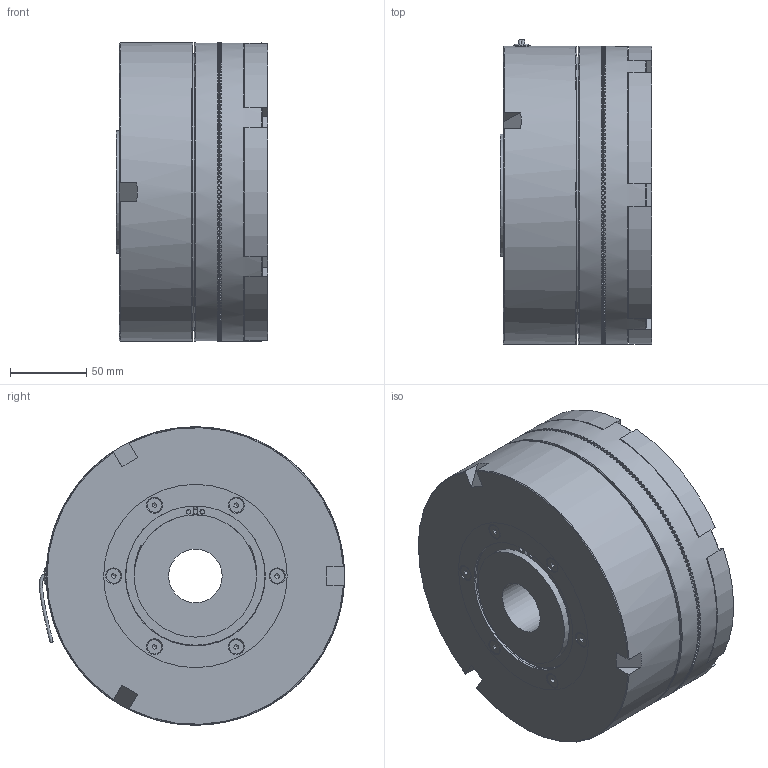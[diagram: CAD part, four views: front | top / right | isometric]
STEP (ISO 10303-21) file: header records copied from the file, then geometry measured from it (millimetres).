
FILE_DESCRIPTION(/* description */ ('','CAx-IF Rec.Pracs.---Representation and Presentation of Product Manufacturing Information (PMI)---4.0---2014-10-13'),/* implementation_level */ '2;1');
FILE_NAME(/* name */ 'X:\INVENTOR\DISEGNI\07_Innesti_Elettmag_a_Dentini\07_05 ESB_Z\07_05_195_01 ESB195_Z\07_05_195_01 ESB195_Z-2015@STEP.stp',/* time_stamp */ '2017-11-16T07:26:26+01:00',/* author */ ('stefano'),/* organization */ (''),/* preprocessor_version */ 'ST-DEVELOPER v17',/* originating_system */ 'Autodesk Inventor 2018',/* authorisation */ '');
FILE_SCHEMA (('AP242_MANAGED_MODEL_BASED_3D_ENGINEERING_MIM_LF { 1 0 10303 442 1 1 4 }'));
Products named in the file (1): 07_05_195_01 ESB195_Z-2015_Substitute_1
Bounding box: 99 x 199.44 x 195 mm (x, y, z)
Volume: 2409661.3 mm3; surface area: 315028.4 mm2
Topology: 2 solids, 2 shells, 2235 faces, 7062 edges, 4696 vertices
Faces by surface type: plane 1883, cylinder 176, torus 100, sphere 46, cone 27, bspline 3
Full cylindrical faces by diameter (mm): 3 x4, 4 x1, 4.917 x3, 7.9 x3, 8 x50, 8.5 x3, 9.43 x6, 10.5 x6, 11 x1, 12 x3, 13 x3, 35 x1, 76.5 x1, 80 x3, 85 x1, 86.4 x4, 90 x1, 91.5 x1, 93.6 x4, 95 x1, 99 x1, 100 x3, 104 x1, 135 x1, 138 x1, 155 x1, 165 x1, 178 x1, 181 x1, 182 x2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
Entity records: 85444 total; most frequent: CARTESIAN_POINT 19526, DIRECTION 15202, ORIENTED_EDGE 13936, EDGE_CURVE 6968, AXIS2_PLACEMENT_3D 6447, VERTEX_POINT 4696, EDGE_LOOP 2439, ELLIPSE 2430
